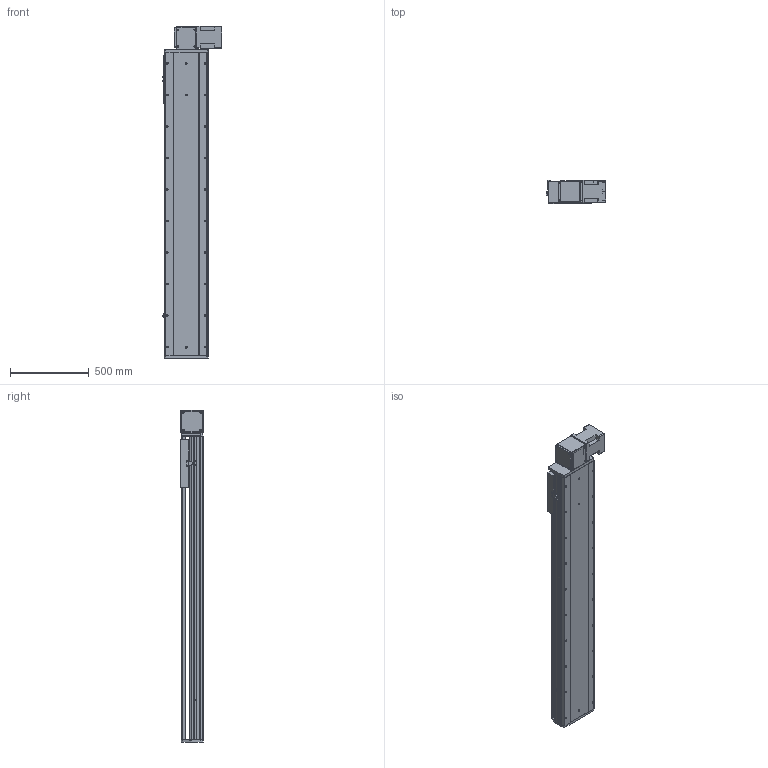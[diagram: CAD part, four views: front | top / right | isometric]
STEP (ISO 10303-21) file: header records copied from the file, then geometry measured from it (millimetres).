
FILE_DESCRIPTION (( 'STEP AP214' ), '1' );
FILE_NAME ('RTB28S-XX-1500-BL-M100-XX-C4.STEP', '2025-12-22T02:23:21', ( '' ), ( '' ), 'SwSTEP 2.0', 'SolidWorks 2018', '' );
FILE_SCHEMA (( 'AUTOMOTIVE_DESIGN' ));
Length unit declared in the file: millimetre
Products named in the file (4): RTB28S-GY-011^RTB28S-XX-XX-BL-M100-XX-C4; RTB28S-GY-004^RTB28S-XX-XX-BL-M100-XX-C4; RTB28S-GY-008^RTB28S-XX-XX-BL-M100-XX-C4; RTB28S-XX-1500-BL-M100-XX-C4
Assembly tree (3 placements, depth 2):
  RTB28S-XX-1500-BL-M100-XX-C4
    RTB28S-GY-011^RTB28S-XX-XX-BL-M100-XX-C4
    RTB28S-GY-004^RTB28S-XX-XX-BL-M100-XX-C4
    RTB28S-GY-008^RTB28S-XX-XX-BL-M100-XX-C4
Bounding box: 380.7 x 145 x 2107 mm (x, y, z)
Volume: 37493951.3 mm3; surface area: 3570641.7 mm2
Topology: 3 solids, 4 shells, 808 faces, 2148 edges, 1368 vertices
Faces by surface type: cylinder 375, plane 349, cone 80, torus 4
Entity records: 30485 total; most frequent: CARTESIAN_POINT 5302, DIRECTION 4554, ORIENTED_EDGE 4232, EDGE_CURVE 2116, AXIS2_PLACEMENT_3D 1652, VERTEX_POINT 1368, VECTOR 1250, LINE 1250
